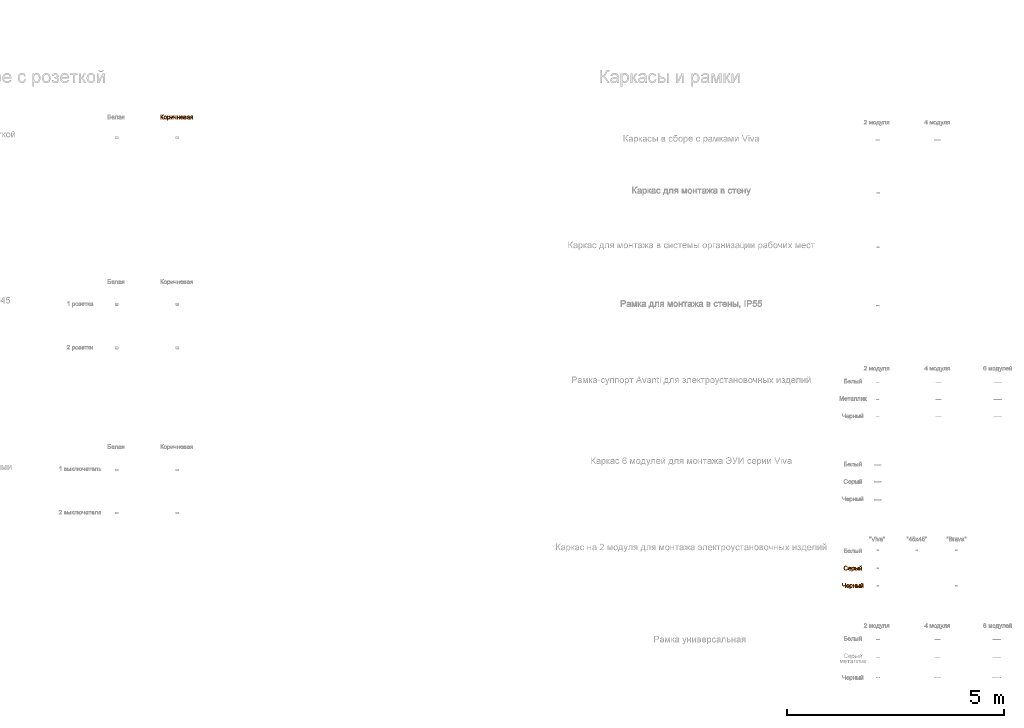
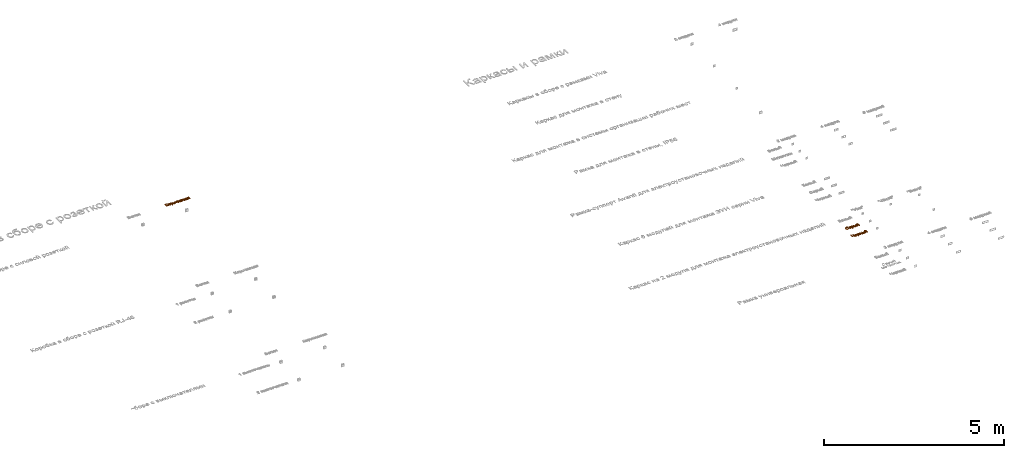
# One storey, part 66 of 87: 3 proxies.
"""IFC2X3 building model written with IfcOpenShell, lengths in millimetres."""

from ifc_helpers import new_model, entity, si_unit, converted_unit, derived_unit, direction, frame, frame_2d, origin, origin_2d_with_axis, place, context, subcontext, project, spatial, polyline, rectangle, outline, extrude, element, save


model = new_model("IFC2X3")

# Units and contexts
model_context = context("Model", 3, precision=0.01, world=origin(), true_north=direction((6.12303176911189e-17, 1.0)))
body_context = subcontext(model_context, "Body", "Model", "MODEL_VIEW")
ifc_project = project(units=[si_unit("LENGTHUNIT", "METRE", prefix="MILLI"), si_unit("AREAUNIT", "SQUARE_METRE"), si_unit("VOLUMEUNIT", "CUBIC_METRE"), converted_unit("PLANEANGLEUNIT", "DEGREE", entity("IfcRatioMeasure", 0.0174532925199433), si_unit("PLANEANGLEUNIT", "RADIAN"), dimensions=[0, 0, 0, 0, 0, 0, 0]), si_unit("MASSUNIT", "GRAM", prefix="KILO"), derived_unit("MASSDENSITYUNIT", [(si_unit("MASSUNIT", "GRAM", prefix="KILO"), 1), (si_unit("LENGTHUNIT", "METRE"), -3)]), si_unit("TIMEUNIT", "SECOND"), si_unit("FREQUENCYUNIT", "HERTZ"), si_unit("THERMODYNAMICTEMPERATUREUNIT", "DEGREE_CELSIUS"), derived_unit("THERMALTRANSMITTANCEUNIT", [(si_unit("MASSUNIT", "GRAM", prefix="KILO"), 1), (si_unit("THERMODYNAMICTEMPERATUREUNIT", "KELVIN"), -1), (si_unit("TIMEUNIT", "SECOND"), -3)]), derived_unit("VOLUMETRICFLOWRATEUNIT", [(si_unit("LENGTHUNIT", "METRE"), 3), (si_unit("TIMEUNIT", "SECOND"), -1)]), si_unit("ELECTRICCURRENTUNIT", "AMPERE"), si_unit("ELECTRICVOLTAGEUNIT", "VOLT"), si_unit("POWERUNIT", "WATT"), si_unit("FORCEUNIT", "NEWTON", prefix="KILO"), si_unit("ILLUMINANCEUNIT", "LUX"), si_unit("LUMINOUSFLUXUNIT", "LUMEN"), si_unit("LUMINOUSINTENSITYUNIT", "CANDELA"), derived_unit("USERDEFINED", [(si_unit("MASSUNIT", "GRAM", prefix="KILO"), -1), (si_unit("LENGTHUNIT", "METRE"), -2), (si_unit("TIMEUNIT", "SECOND"), 3), (si_unit("LUMINOUSFLUXUNIT", "LUMEN"), 1)]), derived_unit("LINEARVELOCITYUNIT", [(si_unit("LENGTHUNIT", "METRE"), 1), (si_unit("TIMEUNIT", "SECOND"), -1)]), si_unit("PRESSUREUNIT", "PASCAL"), derived_unit("USERDEFINED", [(si_unit("LENGTHUNIT", "METRE"), -2), (si_unit("MASSUNIT", "GRAM", prefix="KILO"), 1), (si_unit("TIMEUNIT", "SECOND"), -2)])], contexts=[model_context])

# Site, building, storey
site_placement = place(None, origin())
site = spatial("IfcSite", under=ifc_project, at=site_placement, Name="Default", CompositionType="ELEMENT")
building_placement = place(site_placement, origin())
building = spatial("IfcBuilding", under=site, at=building_placement, Name="Наименование здания", CompositionType="ELEMENT")
storey_placement = place(building_placement, origin())
storey = spatial("IfcBuildingStorey", under=building, at=storey_placement, Name="Этаж 01", CompositionType="ELEMENT", Elevation=0.0)

# Proxies
proxy_1_placement = place(storey_placement, origin())
element("IfcBuildingElementProxy", 1, at=proxy_1_placement, inside=storey, Name="Текст модели:100 мм Arial", ObjectType="Текст модели:100 мм Arial", context=body_context, shape_type="SweptSolid", body=[
    extrude(outline(polyline([(-40.1432833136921, -39.8663907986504), (60.3130268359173, -39.8663907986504), (60.3130268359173, -27.3093520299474), (13.2241314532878, -27.3093520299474), (17.2340452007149, -14.2250157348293), (32.0106386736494, -1.65571423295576), (60.3130268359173, 16.1988252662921), (60.3130268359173, 30.7669522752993), (26.8112398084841, 9.65052575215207), (14.9777022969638, 0.0917252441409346), (9.30005683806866, -9.60196532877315), (4.10065797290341, -0.932212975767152), (-24.5696121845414, 15.4140103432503), (-27.5862445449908, 25.2241968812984), (-27.4390917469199, 30.7669522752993), (-39.9961305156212, 30.7669522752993), (-40.1432833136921, 22.5263955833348), (-37.3228546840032, 11.3059947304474), (-30.3698849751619, 3.45784550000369), (-16.3290554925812, -3.4705987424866), (0.483151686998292, -13.268522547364), (3.80635237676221, -27.3093520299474), (-40.1432833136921, -27.3093520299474), (-40.1432833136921, -39.8663907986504)])), frame((60780.5461702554, 4432.1882116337, 0.0), z_axis=(0.0, 0.0, 1.0), x_axis=(0.0, -1.0, 0.0)), (0.0, 0.0, 1.0), 20.0),
    extrude(outline(polyline([(-2.34029740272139, -31.698490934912), (14.2731811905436, -31.698490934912), (27.186952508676, -26.5873672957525), (35.9909592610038, -17.1811275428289), (40.2751441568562, -4.29577920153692), (38.149171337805, 13.169045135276), (27.2514955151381, 26.6485362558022), (5.6779791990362, 33.7446283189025), (-10.1280544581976, 33.6081083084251), (-22.805938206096, 28.3900569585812), (-31.6389568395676, 18.9754531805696), (-35.9103951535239, 6.24927588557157), (-35.5406401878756, -5.97109031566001), (-30.8535887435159, -16.7835237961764), (-19.5870121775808, -26.5692340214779), (-2.34029740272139, -31.698490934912)]), holes=[polyline([(-0.642949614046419, -19.2566729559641), (-11.694809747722, -16.2599663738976), (-19.0989004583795, -10.8341828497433), (-22.982263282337, -3.67356758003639), (-23.4719397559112, 4.52763423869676), (-20.7783225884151, 12.2046648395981), (-15.0781786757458, 18.0357050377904), (-6.56600936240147, 21.2863283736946), (4.5636840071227, 21.2221083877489), (15.8675929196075, 18.1905150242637), (23.3961896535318, 12.7474982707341), (27.3267847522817, 5.59272509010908), (27.836688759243, -2.57413755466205), (25.1317228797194, -10.3331599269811), (19.4311586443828, -16.1672368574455), (10.8134498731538, -19.3753979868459), (-0.642949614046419, -19.2566729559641)])]), frame((60849.3116538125, 4410.78933348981, 0.0), z_axis=(0.0, 0.0, 1.0), x_axis=(0.13710570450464, -0.99055642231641, 0.0)), (0.0, 0.0, 1.0), 20.0),
    extrude(outline(polyline([(-28.8983569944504, -61.2335493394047), (-16.3413182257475, -61.2335493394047), (-16.3413182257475, -23.1700255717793), (-8.38280439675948, -31.324743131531), (2.54329085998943, -34.5498419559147), (18.4235303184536, -29.7305878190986), (29.9259740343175, -15.8736993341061), (33.8868368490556, 4.4701749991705), (30.3796951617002, 23.82076794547), (19.9808974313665, 37.5059781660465), (4.06386977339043, 42.3620205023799), (-7.65930313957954, 38.8916670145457), (-16.3413182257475, 28.4806065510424), (-16.3413182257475, 40.7923906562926), (-28.8983569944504, 40.7923906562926), (-28.8983569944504, -61.2335493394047)]), holes=[polyline([(-16.3413182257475, 3.3174780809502), (-14.8912500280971, 14.7064915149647), (-10.5410454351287, 23.0236902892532), (-4.30851130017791, 28.1096588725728), (2.7885455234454, 29.8049817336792), (9.85801119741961, 28.2108264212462), (15.8606190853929, 23.428360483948), (19.9625033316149, 15.4453211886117), (21.3297980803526, 4.24944580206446), (19.9287808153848, -7.43080754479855), (15.7257290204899, -15.5916564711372), (9.56063991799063, -20.3925165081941), (2.2735107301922, -21.9928031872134), (-4.89712249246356, -20.4476988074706), (-10.9089274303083, -15.8123856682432), (-14.9832205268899, -7.93971097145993), (-16.3413182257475, 3.3174780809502)])]), frame((60926.54112106, 4404.85539690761, 0.0)), (0.0, 0.0, 1.0), 20.0),
    extrude(outline(polyline([(-36.9206370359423, -29.8425874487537), (36.8519657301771, -29.8425874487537), (36.8519657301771, -13.4105249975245), (-19.0660975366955, 17.2463079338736), (36.8519657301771, 17.2463079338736), (36.8519657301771, 29.8033467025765), (-36.9206370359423, 29.8033467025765), (-36.9206370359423, 13.5674879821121), (19.3407827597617, -17.2855486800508), (-36.9206370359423, -17.2855486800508), (-36.9206370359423, -29.8425874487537)])), frame((61004.3972139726, 4408.72715052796, 0.0), z_axis=(0.0, 0.0, 1.0), x_axis=(0.0, -1.0, 0.0)), (0.0, 0.0, 1.0), 20.0),
    extrude(outline(polyline([(-30.7618325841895, -26.323489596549), (-10.4056955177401, -26.323489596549), (3.94170229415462, -24.1161976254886), (14.9658994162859, -15.7407508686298), (19.4663224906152, -1.50371765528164), (15.1498404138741, 19.1957759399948), (43.0107701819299, 19.1957759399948), (43.0107701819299, 31.7528147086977), (-30.7618325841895, 31.7528147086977), (-30.7618325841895, 19.1957759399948), (3.10783643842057, 19.1957759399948), (6.90928372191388, 1.85627123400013), (3.8436004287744, -7.85581343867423), (-3.34236121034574, -12.748643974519), (-16.6106385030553, -13.7664508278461), (-30.7618325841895, -13.7664508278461), (-30.7618325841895, -26.323489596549)])), frame((61074.6507188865, 4414.88595497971, 0.0), z_axis=(0.0, 0.0, 1.0), x_axis=(0.0, -1.0, 0.0)), (0.0, 0.0, 1.0), 20.0),
    extrude(outline(polyline([(-36.1014864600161, -29.0381521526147), (37.6711163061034, -29.0381521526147), (37.6711163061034, -16.4811133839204), (4.70888953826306, -16.4811133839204), (4.70888953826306, 16.4811133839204), (37.6711163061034, 16.4811133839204), (37.6711163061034, 29.0381521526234), (-36.1014864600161, 29.0381521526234), (-36.1014864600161, 16.4811133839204), (-7.84814923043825, 16.4811133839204), (-7.84814923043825, -16.4811133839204), (-36.1014864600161, -16.4811133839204), (-36.1014864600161, -29.0381521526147)])), frame((61154.2772439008, 4409.54630110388, 0.0), z_axis=(0.0, 0.0, 1.0), x_axis=(0.0, -1.0, 0.0)), (0.0, 0.0, 1.0), 20.0),
    extrude(outline(polyline([(-8.10128238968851, -20.3751729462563), (-15.5352214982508, -30.3140016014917), (-5.78400372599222, -33.5775071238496), (4.12185089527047, -33.3132173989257), (13.8776168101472, -29.4480778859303), (23.1785684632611, -21.9090340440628), (31.6380426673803, -9.59237957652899), (34.1620486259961, 3.7413532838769), (30.6040508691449, 17.2442201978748), (20.817513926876, 30.0682768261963), (7.27698270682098, 39.7846728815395), (-6.66179525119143, 43.111781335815), (-19.9642596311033, 40.422123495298), (-31.59585011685, 32.088220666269), (-39.2435519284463, 20.509004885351), (-41.310682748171, 7.34319797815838), (-37.4373707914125, -6.34962495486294), (-27.2637442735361, -19.5098888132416), (-24.7804584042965, -21.8106804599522), (14.4643272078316, 18.7422646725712), (19.7071986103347, 10.6437992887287), (21.1614672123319, 2.21005051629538), (19.1472085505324, -5.98136753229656), (13.9844981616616, -13.3528407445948), (3.53684605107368, -20.3751729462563), (-8.10128238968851, -20.3751729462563)]), holes=[polyline([(5.44081225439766, 27.4746984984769), (-25.1227061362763, -4.10760383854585), (-29.8038819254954, 7.41909510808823), (-27.8851342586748, 15.7498710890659), (-22.5382240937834, 23.3910349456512), (-8.4097033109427, 31.2368652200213), (-1.08072680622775, 30.914728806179), (5.44081225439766, 27.4746984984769)])]), frame((61233.5261380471, 4402.1977356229, 0.0), z_axis=(0.0, 0.0, -1.0), x_axis=(-0.695421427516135, -0.718602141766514, 0.0)), (0.0, 0.0, -1.0), 20.0),
    extrude(outline(polyline([(-37.9619182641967, -40.7346098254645), (35.8106845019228, -40.7346098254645), (35.8106845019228, -8.82697811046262), (34.4801779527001, 2.14816807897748), (30.4886583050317, 10.1557328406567), (23.75028642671, 15.214110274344), (14.1792231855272, 17.3416944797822), (2.34568567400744, 13.9817055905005), (-4.46013123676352, 5.54494516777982), (-10.677336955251, 12.0441937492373), (-19.3961402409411, 14.2024347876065), (-30.1260317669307, 10.6339794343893), (-36.2819238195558, 2.09911714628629), (-37.9619182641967, -13.0698837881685), (-37.9619182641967, -40.7346098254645)]), holes=[polyline([(-9.70858103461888, -28.1775710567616), (-25.4048794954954, -28.1775710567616), (-25.4048794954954, -15.3752776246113), (-23.6635713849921, -2.20510219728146), (-17.507679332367, 1.64539601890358), (-12.8968916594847, -0.549633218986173), (-10.3462431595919, -5.52830288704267), (-9.70858103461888, -15.7676850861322), (-9.70858103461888, -28.1775710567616)]), polyline([(23.2536457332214, -28.1775710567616), (2.84845773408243, -28.1775710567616), (2.84845773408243, -14.0018515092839), (3.58422172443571, -2.95312892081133), (7.10362614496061, 2.63867740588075), (13.1491535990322, 4.78465571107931), (20.9850400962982, 0.885106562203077), (23.2536457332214, -12.77557819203), (23.2536457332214, -28.1775710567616)])]), frame((61319.7974264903, 4407.6858692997, 0.0), z_axis=(0.0, 0.0, 1.0), x_axis=(0.0, -1.0, 0.0)), (0.0, 0.0, 1.0), 20.0),
    extrude(outline(polyline([(32.0508237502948, 7.88266535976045), (41.9780345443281, 7.88266535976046), (45.9489188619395, 19.7953183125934), (35.1414436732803, 20.7608946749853), (14.2438893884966, 27.0545912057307), (-0.577126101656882, 31.9949297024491), (-11.194588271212, 34.8877809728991), (-20.4974705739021, 33.9299602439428), (-28.5323068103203, 27.547073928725), (-35.461965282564, 13.8157249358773), (-38.3044049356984, -2.69989645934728), (-34.9462156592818, -15.3493345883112), (-25.0306383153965, -24.3807697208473), (-19.5706723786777, -12.9644773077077), (-25.786812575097, -4.50695904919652), (-24.0611841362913, 8.30922519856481), (-16.2279943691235, 20.3304570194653), (-6.33956174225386, 20.6794605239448), (-3.71040200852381, 19.7255176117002), (-6.50243004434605, -2.3004813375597), (-8.14662433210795, -13.2049019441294), (-7.0181796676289, -22.8490321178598), (-2.17478658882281, -31.1204151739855), (6.48825595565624, -36.541602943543), (15.0010331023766, -37.7020395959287), (22.9495879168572, -35.3200906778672), (29.637852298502, -29.3899394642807), (34.3697581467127, -19.9057692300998), (36.2737661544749, -6.36055543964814), (32.0508237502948, 7.88266535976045)]), holes=[polyline([(8.22551784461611, 15.8244339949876), (11.5759514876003, 14.6300664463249), (20.1614376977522, 9.6742166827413), (24.4696920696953, -0.39647332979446), (23.3024692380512, -13.3987927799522), (17.249197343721, -22.9498553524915), (9.62153186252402, -24.3497471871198), (5.58084684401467, -21.1932043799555), (3.98706417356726, -15.5044472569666), (5.47226797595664, -4.61166010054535), (8.22551784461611, 15.8244339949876)])]), frame((61382.3108014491, 4409.206327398, 0.0), z_axis=(0.0, 0.0, 1.0), x_axis=(0.316227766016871, -0.948683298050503, 0.0)), (0.0, 0.0, 1.0), 20.0),
    extrude(outline(polyline([(-36.1880068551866, -39.1855638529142), (-3.42198381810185, -39.1855638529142), (7.43666640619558, -37.7079045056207), (15.3890488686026, -33.2749264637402), (20.2634853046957, -26.4691095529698), (21.8882974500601, -17.8729335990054), (17.130356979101, -3.64816311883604), (11.0970922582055, 1.34890064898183), (2.51317903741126, 3.97925691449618), (13.2062823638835, 14.4271055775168), (25.8123720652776, 34.5870389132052), (11.2932959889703, 34.5870389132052), (1.28690572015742, 18.6454857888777), (-7.46868576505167, 7.92785699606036), (-16.7883629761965, 6.33370168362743), (-23.6309680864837, 6.33370168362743), (-23.6309680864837, 34.5870389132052), (-36.1880068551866, 34.5870389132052), (-36.1880068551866, -39.1855638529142)]), holes=[polyline([(-23.6309680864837, -26.6285250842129), (-23.6309680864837, -6.22333708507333), (-10.7796237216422, -6.22333708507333), (4.90441200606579, -8.81077378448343), (9.33125868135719, -16.9164404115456), (6.3268890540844, -23.7222573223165), (-7.07627830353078, -26.6285250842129), (-23.6309680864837, -26.6285250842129)])]), frame((61450.0659494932, 4406.46222371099, 0.0), z_axis=(0.0, 0.0, 1.0), x_axis=(-1.0, 0.0, 0.0)), (0.0, 0.0, 1.0), 20.0),
])
proxy_2_placement = place(storey_placement, origin())
element("IfcBuildingElementProxy", 2, at=proxy_2_placement, inside=storey, Name="Текст модели:100 мм Arial", ObjectType="Текст модели:100 мм Arial", context=body_context, shape_type="SweptSolid", body=[
    extrude(outline(polyline([(1.51482499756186, -34.416109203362), (0.106407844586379, -47.3070398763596), (15.8423468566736, -47.0569587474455), (29.0556969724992, -42.3279421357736), (39.3932861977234, -33.4650471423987), (46.5019425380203, -20.8133308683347), (50.1054677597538, -6.6050258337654), (49.5636952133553, 5.96401189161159), (45.1423030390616, 17.1113098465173), (37.1069693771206, 27.0543955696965), (13.8427655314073, 41.4649352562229), (-0.385561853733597, 45.2497080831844), (-13.7947428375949, 45.5463194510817), (-25.9267527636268, 42.4308274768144), (-36.3235669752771, 35.9792902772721), (-44.6338782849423, 26.809466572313), (-50.5063795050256, 15.5391150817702), (-53.5414697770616, 1.96814719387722), (-52.0743247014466, -10.7537866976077), (-46.317703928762, -22.1661847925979), (-36.4843671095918, -31.8085452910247), (-29.2483218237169, -21.1187569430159), (-40.0515191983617, -6.02732816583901), (-38.5860312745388, 11.5610351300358), (-26.6200251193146, 28.0408775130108), (-9.20796903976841, 33.3272162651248), (9.3828738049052, 29.7265712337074), (28.28008452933, 18.5384764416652), (37.0403955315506, 2.61944954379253), (35.1968742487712, -15.2062682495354), (30.0363719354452, -24.4614258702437), (22.5795019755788, -30.9812938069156), (13.0108058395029, -34.416109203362), (1.51482499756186, -34.416109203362)])), frame((76558.772011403, -5993.04947364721, 0.0), z_axis=(0.0, 0.0, -1.0), x_axis=(-0.353343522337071, -0.935493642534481, 0.0)), (0.0, 0.0, -1.0), 20.0),
    extrude(outline(polyline([(-8.10128238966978, -20.3751729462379), (-15.5352214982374, -30.3140016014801), (-5.78400372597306, -33.5775071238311), (4.12185089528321, -33.3132173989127), (13.8776168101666, -29.4480778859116), (23.1785684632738, -21.9090340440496), (31.6380426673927, -9.59237957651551), (34.1620486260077, 3.74135328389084), (30.6040508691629, 17.2442201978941), (20.8175139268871, 30.0682768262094), (7.27698270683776, 39.7846728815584), (-6.66179525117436, 43.1117813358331), (-19.9642596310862, 40.4221234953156), (-31.595850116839, 32.0882206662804), (-39.2435519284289, 20.5090048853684), (-41.3106827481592, 7.34319797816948), (-37.4373707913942, -6.34962495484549), (-27.2637442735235, -19.50988881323), (-24.7804584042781, -21.810680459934), (14.4643272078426, 18.7422646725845), (19.707198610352, 10.6437992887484), (21.1614672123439, 2.21005051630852), (19.1472085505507, -5.98136753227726), (13.9844981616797, -13.3528407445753), (3.5368460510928, -20.3751729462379), (-8.10128238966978, -20.3751729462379)]), holes=[polyline([(5.44081225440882, 27.4746984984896), (-25.1227061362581, -4.107603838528), (-29.803881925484, 7.41909510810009), (-27.8851342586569, 15.7498710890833), (-22.5382240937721, 23.3910349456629), (-8.40970331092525, 31.2368652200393), (-1.08072680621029, 30.9147288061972), (5.44081225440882, 27.4746984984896)])]), frame((76650.0613302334, -6012.01382022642, 0.0), z_axis=(0.0, 0.0, -1.0), x_axis=(-0.695421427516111, -0.718602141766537, 0.0)), (0.0, 0.0, -1.0), 20.0),
    extrude(outline(polyline([(-28.8983569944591, -61.2335493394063), (-16.3413182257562, -61.2335493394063), (-16.3413182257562, -23.1700255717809), (-8.38280439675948, -31.3247431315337), (2.54329085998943, -34.5498419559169), (18.4235303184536, -29.7305878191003), (29.9259740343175, -15.8736993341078), (33.8868368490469, 4.47017499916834), (30.3796951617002, 23.8207679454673), (19.9808974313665, 37.5059781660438), (4.06386977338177, 42.3620205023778), (-7.65930313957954, 38.891667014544), (-16.3413182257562, 28.4806065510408), (-16.3413182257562, 40.7923906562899), (-28.8983569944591, 40.7923906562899), (-28.8983569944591, -61.2335493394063)]), holes=[polyline([(-16.3413182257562, 3.31747808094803), (-14.8912500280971, 14.706491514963), (-10.5410454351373, 23.0236902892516), (-4.30851130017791, 28.1096588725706), (2.78854552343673, 29.804981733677), (9.85801119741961, 28.2108264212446), (15.8606190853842, 23.4283604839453), (19.9625033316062, 15.4453211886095), (21.3297980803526, 4.2494458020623), (19.9287808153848, -7.43080754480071), (15.7257290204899, -15.5916564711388), (9.56063991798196, -20.3925165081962), (2.2735107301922, -21.992803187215), (-4.89712249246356, -20.4476988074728), (-10.9089274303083, -15.8123856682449), (-14.9832205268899, -7.9397109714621), (-16.3413182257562, 3.31747808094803)])]), frame((76724.4963658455, -6009.3561589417, 0.0)), (0.0, 0.0, 1.0), 20.0),
    extrude(outline(polyline([(-42.3988715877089, -34.5139341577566), (31.37373117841, -34.5139341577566), (31.37373117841, -3.73447389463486), (29.653882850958, 9.31613988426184), (24.4943378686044, 18.2526066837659), (16.9129030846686, 23.4121516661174), (7.92738535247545, 25.1319999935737), (-1.9410491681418, 23.0810578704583), (-9.42438208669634, 16.9282315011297), (-14.142468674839, 6.9862205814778), (-15.7151642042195, -6.43227519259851), (-15.7151642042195, -21.9568953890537), (-42.3988715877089, -21.9568953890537), (-42.3988715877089, -34.5139341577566)]), holes=[polyline([(18.8166924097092, -21.9568953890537), (-3.15812543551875, -21.9568953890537), (-3.15812543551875, -7.41329384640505), (0.226388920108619, 8.8838785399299), (7.95191081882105, 12.5749612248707), (16.1802047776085, 7.59629155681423), (18.8166924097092, -9.05650009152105), (18.8166924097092, -21.9568953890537)])]), frame((76807.0238054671, -6010.96263987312, 0.0), z_axis=(0.0, 0.0, 1.0), x_axis=(0.0, -1.0, 0.0)), (0.0, 0.0, 1.0), 20.0),
    extrude(outline(polyline([(-11.1429830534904, -6.65049913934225), (-15.3141401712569, -15.0941956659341), (-0.0922190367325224, -15.8161107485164), (10.2631635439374, -5.84547547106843), (12.4162171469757, 9.42172447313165), (2.76087400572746, 21.4951559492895), (-1.41028311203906, 13.0514594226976), (3.36929976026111, 6.75127419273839), (2.31913688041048, -0.662833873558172), (-3.16906596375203, -6.65049913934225), (-11.1429830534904, -6.65049913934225)])), frame((76902.8786664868, -5948.92500110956, 0.0), z_axis=(0.0, 0.0, -1.0), x_axis=(-0.442902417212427, -0.896569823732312, 0.0)), (0.0, 0.0, -1.0), 20.0),
    extrude(outline(polyline([(-36.9206370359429, -29.8425874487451), (36.851965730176, -29.8425874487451), (36.851965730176, -13.4105249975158), (-19.0660975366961, 17.2463079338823), (36.851965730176, 17.2463079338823), (36.851965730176, 29.8033467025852), (-36.9206370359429, 29.8033467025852), (-36.9206370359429, 13.5674879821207), (19.3407827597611, -17.2855486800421), (-36.9206370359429, -17.2855486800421), (-36.9206370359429, -29.8425874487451)])), frame((76902.8087689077, -6005.48440532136, 0.0), z_axis=(0.0, 0.0, 1.0), x_axis=(0.0, -1.0, 0.0)), (0.0, 0.0, 1.0), 20.0),
    extrude(rectangle(XDim=73.7726027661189, YDim=12.5570387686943, at=frame_2d((0.0, 4.33164615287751e-12), x_axis=(1.0, 0.0))), frame((76847.8521039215, -6005.45006966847, 0.0), z_axis=(0.0, 0.0, 1.0), x_axis=(0.0, -1.0, 0.0)), (0.0, 0.0, 1.0), 20.0),
])
proxy_3_placement = place(storey_placement, origin())
element("IfcBuildingElementProxy", 3, at=proxy_3_placement, inside=storey, Name="Текст модели:100 мм Arial", ObjectType="Текст модели:100 мм Arial", context=body_context, shape_type="SweptSolid", body=[
    extrude(outline(polyline([(-57.0521744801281, -41.5683661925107), (43.4041356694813, -41.5683661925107), (43.4041356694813, -29.0113274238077), (-5.30344049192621, -29.0113274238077), (-11.5329089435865, 0.689012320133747), (-6.37029827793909, 15.1835629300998), (1.59741260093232, 19.7085114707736), (15.1753239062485, 21.2168276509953), (43.4041356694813, 21.2168276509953), (43.4041356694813, 33.7738664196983), (13.4830667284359, 33.7738664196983), (-6.51745107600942, 31.0883278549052), (-19.1235407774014, 20.4442754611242), (-24.0899477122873, 2.08696390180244), (-16.8304096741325, -29.0113274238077), (-57.0521744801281, -29.0113274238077), (-57.0521744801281, -41.5683661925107)])), frame((76514.3325863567, -6385.28419657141, 0.0), z_axis=(0.0, 0.0, 1.0), x_axis=(0.0, 1.0, 0.0)), (0.0, 0.0, 1.0), 20.0),
    extrude(outline(polyline([(-8.101282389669, -20.3751729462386), (-15.5352214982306, -30.3140016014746), (-5.78400372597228, -33.5775071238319), (4.12185089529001, -33.3132173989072), (13.8776168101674, -29.4480778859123), (23.1785684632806, -21.9090340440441), (31.6380426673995, -9.59237957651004), (34.1620486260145, 3.74135328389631), (30.6040508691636, 17.2442201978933), (20.8175139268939, 30.0682768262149), (7.27698270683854, 39.7846728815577), (-6.66179525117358, 43.1117813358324), (-19.9642596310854, 40.4221234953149), (-31.5958501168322, 32.0882206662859), (-39.2435519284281, 20.5090048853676), (-41.3106827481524, 7.34319797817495), (-37.4373707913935, -6.34962495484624), (-27.2637442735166, -19.5098888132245), (-24.7804584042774, -21.8106804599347), (14.4643272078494, 18.74226467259), (19.7071986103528, 10.6437992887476), (21.1614672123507, 2.21005051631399), (19.1472085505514, -5.98136753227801), (13.9844981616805, -13.352840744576), (3.53684605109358, -20.3751729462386), (-8.101282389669, -20.3751729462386)]), holes=[polyline([(5.44081225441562, 27.474698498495), (-25.1227061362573, -4.10760383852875), (-29.8038819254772, 7.41909510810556), (-27.8851342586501, 15.7498710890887), (-22.5382240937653, 23.3910349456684), (-8.40970331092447, 31.2368652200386), (-1.08072680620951, 30.9147288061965), (5.44081225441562, 27.474698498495)])]), frame((76607.681324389, -6412.01382022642, 0.0), z_axis=(0.0, 0.0, -1.0), x_axis=(-0.695421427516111, -0.718602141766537, 0.0)), (0.0, 0.0, -1.0), 20.0),
    extrude(outline(polyline([(-28.8983569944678, -61.2335493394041), (-16.3413182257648, -61.2335493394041), (-16.3413182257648, -23.1700255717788), (-8.38280439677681, -31.3247431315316), (2.5432908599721, -34.5498419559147), (18.4235303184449, -29.7305878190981), (29.9259740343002, -15.8736993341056), (33.8868368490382, 4.4701749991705), (30.3796951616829, 23.8207679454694), (19.9808974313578, 37.505978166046), (4.06386977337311, 42.3620205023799), (-7.65930313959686, 38.8916670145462), (-16.3413182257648, 28.4806065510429), (-16.3413182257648, 40.7923906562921), (-28.8983569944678, 40.7923906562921), (-28.8983569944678, -61.2335493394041)]), holes=[polyline([(-16.3413182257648, 3.3174780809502), (-14.8912500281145, 14.7064915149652), (-10.541045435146, 23.0236902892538), (-4.30851130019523, 28.1096588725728), (2.78854552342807, 29.8049817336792), (9.85801119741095, 28.2108264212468), (15.8606190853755, 23.4283604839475), (19.9625033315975, 15.4453211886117), (21.3297980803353, 4.24944580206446), (19.9287808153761, -7.43080754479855), (15.7257290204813, -15.5916564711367), (9.5606399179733, -20.3925165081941), (2.27351073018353, -21.9928031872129), (-4.89712249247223, -20.4476988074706), (-10.9089274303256, -15.8123856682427), (-14.9832205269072, -7.93971097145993), (-16.3413182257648, 3.3174780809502)])]), frame((76682.1163600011, -6409.35615894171, 0.0)), (0.0, 0.0, 1.0), 20.0),
    extrude(outline(polyline([(-36.1014864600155, -29.0381521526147), (37.6711163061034, -29.0381521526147), (37.6711163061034, -16.4811133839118), (4.70888953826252, -16.4811133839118), (4.70888953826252, 16.4811133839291), (37.6711163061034, 16.4811133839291), (37.6711163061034, 29.038152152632), (-36.1014864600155, 29.038152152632), (-36.1014864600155, 16.4811133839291), (-7.84814923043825, 16.4811133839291), (-7.84814923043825, -16.4811133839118), (-36.1014864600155, -16.4811133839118), (-36.1014864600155, -29.0381521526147)])), frame((76759.1680176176, -6404.66525474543, 0.0), z_axis=(0.0, 0.0, 1.0), x_axis=(0.0, -1.0, 0.0)), (0.0, 0.0, 1.0), 20.0),
    extrude(outline(polyline([(-42.3988715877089, -34.5139341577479), (31.37373117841, -34.5139341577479), (31.37373117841, -3.73447389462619), (29.653882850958, 9.3161398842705), (24.4943378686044, 18.2526066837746), (16.9129030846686, 23.4121516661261), (7.92738535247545, 25.1319999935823), (-1.9410491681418, 23.081057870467), (-9.42438208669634, 16.9282315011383), (-14.142468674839, 6.98622058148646), (-15.7151642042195, -6.43227519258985), (-15.7151642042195, -21.9568953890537), (-42.3988715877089, -21.9568953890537), (-42.3988715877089, -34.5139341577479)]), holes=[polyline([(18.8166924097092, -21.9568953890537), (-3.15812543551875, -21.9568953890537), (-3.15812543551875, -7.41329384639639), (0.226388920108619, 8.88387853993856), (7.95191081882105, 12.5749612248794), (16.1802047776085, 7.59629155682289), (18.8166924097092, -9.05650009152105), (18.8166924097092, -21.9568953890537)])]), frame((76841.555662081, -6410.96263987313, 0.0), z_axis=(0.0, 0.0, 1.0), x_axis=(0.0, -1.0, 0.0)), (0.0, 0.0, 1.0), 20.0),
    extrude(outline(polyline([(-11.1429830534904, -6.65049913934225), (-15.3141401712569, -15.0941956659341), (-0.0922190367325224, -15.8161107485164), (10.2631635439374, -5.84547547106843), (12.4162171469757, 9.42172447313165), (2.76087400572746, 21.4951559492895), (-1.41028311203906, 13.0514594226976), (3.36929976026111, 6.75127419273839), (2.31913688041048, -0.662833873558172), (-3.16906596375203, -6.65049913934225), (-11.1429830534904, -6.65049913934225)])), frame((76937.4105231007, -6348.92500110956, 0.0), z_axis=(0.0, 0.0, -1.0), x_axis=(-0.442902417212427, -0.896569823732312, 0.0)), (0.0, 0.0, -1.0), 20.0),
    extrude(outline(polyline([(-36.9206370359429, -29.8425874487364), (36.851965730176, -29.8425874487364), (36.851965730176, -13.4105249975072), (-19.0660975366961, 17.2463079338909), (36.851965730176, 17.2463079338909), (36.851965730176, 29.8033467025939), (-36.9206370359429, 29.8033467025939), (-36.9206370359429, 13.5674879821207), (19.3407827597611, -17.2855486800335), (-36.9206370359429, -17.2855486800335), (-36.9206370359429, -29.8425874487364)])), frame((76937.3406255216, -6405.48440532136, 0.0), z_axis=(0.0, 0.0, 1.0), x_axis=(0.0, -1.0, 0.0)), (0.0, 0.0, 1.0), 20.0),
    extrude(rectangle(XDim=73.7726027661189, YDim=12.5570387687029, at=origin_2d_with_axis()), frame((76882.3839605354, -6405.45006966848, 0.0), z_axis=(0.0, 0.0, 1.0), x_axis=(0.0, -1.0, 0.0)), (0.0, 0.0, 1.0), 20.0),
])

save(model, "model.ifc")
